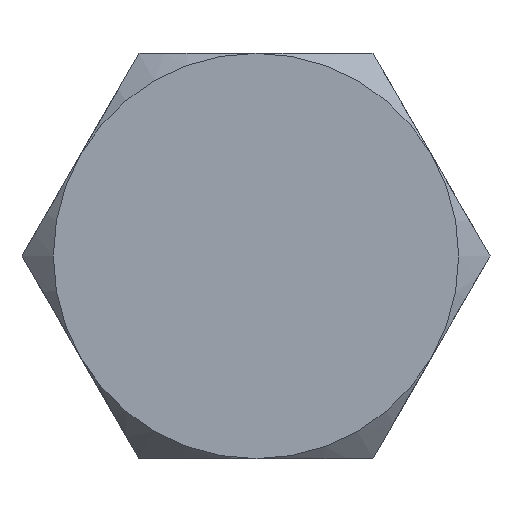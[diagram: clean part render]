
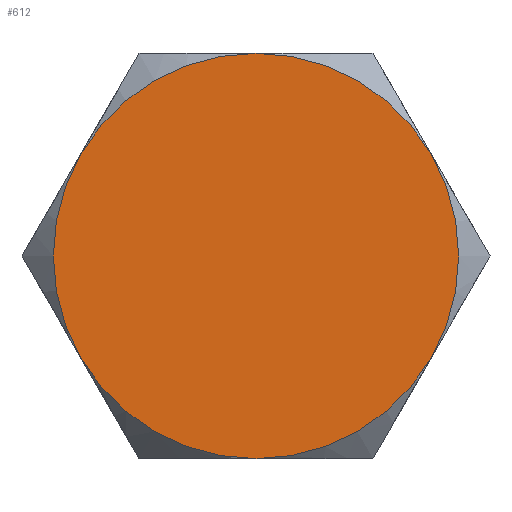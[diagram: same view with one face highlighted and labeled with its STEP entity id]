
A CAD part, front view. The second image highlights one B-rep face of the part: STEP entity #612.
In plain terms, the highlighted planar face has unit normal (0, -1, 0).
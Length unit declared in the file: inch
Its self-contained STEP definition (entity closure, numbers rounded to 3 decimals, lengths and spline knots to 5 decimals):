
#51=PLANE('',#704);
#135=FACE_OUTER_BOUND('',#177,.T.);
#177=EDGE_LOOP('',(#552,#553,#554,#555,#556,#557));
#213=CIRCLE('',#693,0.625);
#214=CIRCLE('',#695,0.625);
#215=CIRCLE('',#697,0.625);
#216=CIRCLE('',#699,0.625);
#217=CIRCLE('',#701,0.625);
#218=CIRCLE('',#703,0.625);
#269=VERTEX_POINT('',#1103);
#274=VERTEX_POINT('',#1123);
#277=VERTEX_POINT('',#1140);
#279=VERTEX_POINT('',#1158);
#282=VERTEX_POINT('',#1175);
#284=VERTEX_POINT('',#1191);
#370=EDGE_CURVE('',#269,#277,#213,.T.);
#371=EDGE_CURVE('',#284,#269,#214,.T.);
#372=EDGE_CURVE('',#282,#284,#215,.T.);
#373=EDGE_CURVE('',#279,#282,#216,.T.);
#374=EDGE_CURVE('',#274,#279,#217,.T.);
#375=EDGE_CURVE('',#277,#274,#218,.T.);
#552=ORIENTED_EDGE('',*,*,#374,.F.);
#553=ORIENTED_EDGE('',*,*,#375,.F.);
#554=ORIENTED_EDGE('',*,*,#370,.F.);
#555=ORIENTED_EDGE('',*,*,#371,.F.);
#556=ORIENTED_EDGE('',*,*,#372,.F.);
#557=ORIENTED_EDGE('',*,*,#373,.F.);
#612=ADVANCED_FACE('',(#135),#51,.T.);
#693=AXIS2_PLACEMENT_3D('',#1205,#857,#858);
#695=AXIS2_PLACEMENT_3D('',#1207,#861,#862);
#697=AXIS2_PLACEMENT_3D('',#1209,#865,#866);
#699=AXIS2_PLACEMENT_3D('',#1211,#869,#870);
#701=AXIS2_PLACEMENT_3D('',#1213,#873,#874);
#703=AXIS2_PLACEMENT_3D('',#1215,#877,#878);
#704=AXIS2_PLACEMENT_3D('',#1216,#879,#880);
#857=DIRECTION('center_axis',(0.,1.,0.));
#858=DIRECTION('ref_axis',(0.,0.,1.));
#861=DIRECTION('center_axis',(0.,1.,0.));
#862=DIRECTION('ref_axis',(0.,0.,1.));
#865=DIRECTION('center_axis',(0.,1.,0.));
#866=DIRECTION('ref_axis',(0.,0.,1.));
#869=DIRECTION('center_axis',(0.,1.,0.));
#870=DIRECTION('ref_axis',(0.,0.,1.));
#873=DIRECTION('center_axis',(0.,1.,0.));
#874=DIRECTION('ref_axis',(0.,0.,1.));
#877=DIRECTION('center_axis',(0.,1.,0.));
#878=DIRECTION('ref_axis',(0.,0.,1.));
#879=DIRECTION('center_axis',(0.,-1.,0.));
#880=DIRECTION('ref_axis',(0.,0.,-1.));
#1103=CARTESIAN_POINT('',(0.54127,0.,0.3125));
#1123=CARTESIAN_POINT('',(0.,0.,-0.625));
#1140=CARTESIAN_POINT('',(0.54127,0.,-0.3125));
#1158=CARTESIAN_POINT('',(-0.54127,0.,-0.3125));
#1175=CARTESIAN_POINT('',(-0.54127,0.,0.3125));
#1191=CARTESIAN_POINT('',(0.,0.,0.625));
#1205=CARTESIAN_POINT('Origin',(0.,0.,0.));
#1207=CARTESIAN_POINT('Origin',(0.,0.,0.));
#1209=CARTESIAN_POINT('Origin',(0.,0.,0.));
#1211=CARTESIAN_POINT('Origin',(0.,0.,0.));
#1213=CARTESIAN_POINT('Origin',(0.,0.,0.));
#1215=CARTESIAN_POINT('Origin',(0.,0.,0.));
#1216=CARTESIAN_POINT('Origin',(0.,0.,0.));
